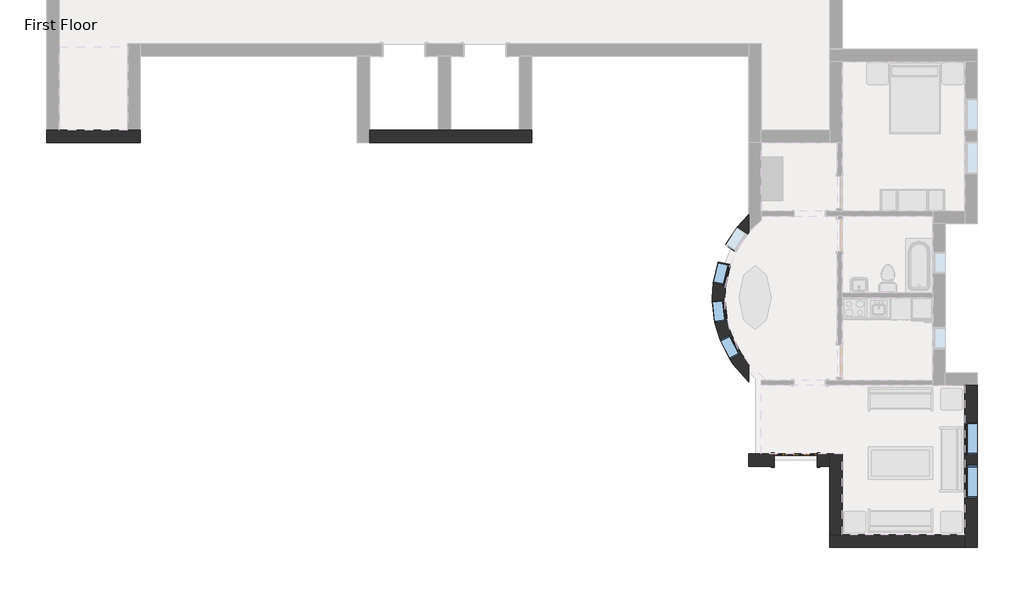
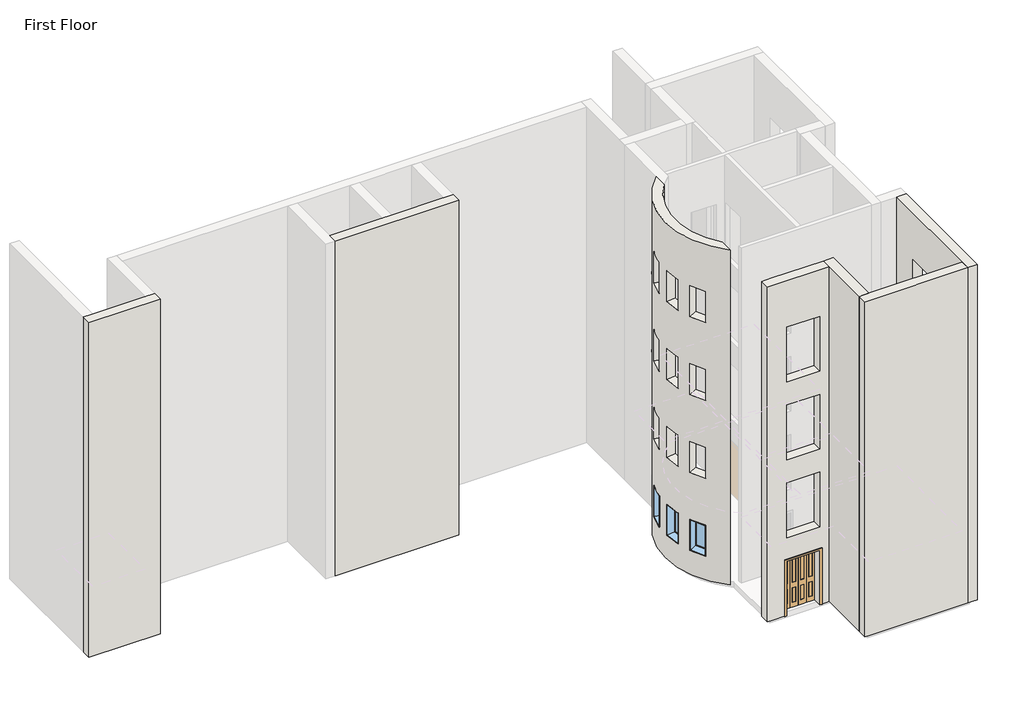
# One storey, part 1 of 8: 7 walls, 5 windows, 1 door.
"""IFC4 building model written with IfcOpenShell, lengths in millimetres."""

from ifc_helpers import new_model, si_unit, frame, origin, place, context, project, spatial, polyline, circle_curve, faceted_brep, transform, mapped, element, save
from ifc_brep_helpers import plane_surface, cylinder_surface, revolved_surface, advanced_brep
from components import m_bifold_4_panel_1220_x_2134mm_1a506c01, m_fixed_0610_x_1220mm_2b91b687, m_fixed_0610_x_1220mm_9ad90eeb, m_fixed_0915_x_1220mm_ca90dcf7

model = new_model("IFC4")

# Units and contexts
model_context = context("Model", 3, world=origin())
ifc_project = project(units=[si_unit("LENGTHUNIT", "METRE", prefix="MILLI")], contexts=[model_context])

# Site, building, storey
site = spatial("IfcSite", under=ifc_project)
building = spatial("IfcBuilding", under=site)
storey = spatial("IfcBuildingStorey", under=building, Name="First Floor", Elevation=0.0)

# Door
placement = place(None, origin())
m_bifold_4_panel_1220_x_2134mm_shape = m_bifold_4_panel_1220_x_2134mm_1a506c01(model_context)
element("IfcDoor", 1, ObjectType="M_Bifold-4 Panel : 1220 x 2134mm", at=placement, inside=storey, context=model_context, shape_type="MappedRepresentation", body=[
    mapped(m_bifold_4_panel_1220_x_2134mm_shape, transform((-5156.1714563, -9518.1683133, 0.0), x_axis=(1.0, 0.0, 0.0), y_axis=(0.0, 1.0, 0.0), z_axis=(0.0, 0.0, 1.0))),
])

# Walls
element("IfcWall", 2, ObjectType="Exterior - Brick on Mtl. Stud", at=placement, inside=storey, context=model_context, shape_type="Brep", body=[
    faceted_brep([(-17171.9589563, -550.3808133, 0.0), (-12599.9589563, -550.3808133, 0.0), (-12599.9589563, -550.3808133, 13106.4), (-17171.9589563, -550.3808133, 13106.4), (-17171.9589563, -197.9558133, 0.0), (-17171.9589563, -197.9558133, 13106.4), (-15238.3839563, -197.9558133, 13106.4), (-14885.9589563, -197.9558133, 13106.4), (-12952.3839563, -197.9558133, 13106.4), (-12599.9589563, -197.9558133, 13106.4), (-12599.9589563, -197.9558133, 0.0), (-12952.3839563, -197.9558133, 0.0), (-14885.9589563, -197.9558133, 0.0), (-15238.3839563, -197.9558133, 0.0)], [[[0, 1, 2, 3]], [[4, 5, 6, 7, 8, 9, 10, 11, 12, 13]], [[1, 0, 4, 13, 12, 11, 10]], [[3, 2, 9, 8, 7, 6, 5]], [[2, 1, 10, 9]], [[0, 3, 5, 4]]]),
])
element("IfcWall", 3, ObjectType="Exterior - Brick on Mtl. Stud", at=placement, inside=storey, context=model_context, shape_type="Brep", body=[
    faceted_brep([(-26287.3839563, -550.3808133, 0.0), (-23648.9589563, -550.3808133, 0.0), (-23648.9589563, -550.3808133, 13106.4), (-26287.3839563, -550.3808133, 13106.4), (-26287.3839563, -197.9558133, 0.0), (-26287.3839563, -197.9558133, 13106.4), (-25934.9589563, -197.9558133, 13106.4), (-24001.3839563, -197.9558133, 13106.4), (-23648.9589563, -197.9558133, 13106.4), (-23648.9589563, -197.9558133, 0.0), (-24001.3839563, -197.9558133, 0.0), (-25934.9589563, -197.9558133, 0.0)], [[[0, 1, 2, 3]], [[4, 5, 6, 7, 8, 9, 10, 11]], [[1, 0, 4, 11, 10, 9]], [[3, 2, 8, 7, 6, 5]], [[2, 1, 9, 8]], [[0, 3, 5, 4]]]),
])
element("IfcWall", 4, ObjectType="Exterior - Brick on Mtl. Stud", at=placement, inside=storey, context=model_context, shape_type="Brep", body=[
    faceted_brep([(-379.3839563, -7408.3808133, 0.0), (-379.3839563, -11627.9558133, 0.0), (-379.3839563, -11793.0558133, 0.0), (-379.3839563, -11980.3808133, 0.0), (-379.3839563, -11980.3808133, 13107.0), (-379.3839563, -11627.9558133, 13107.0), (-379.3839563, -7408.3808133, 13107.0), (-379.3839563, -9366.0683133, 915.0), (-379.3839563, -8451.0683133, 915.0), (-379.3839563, -8451.0683133, 2135.0), (-379.3839563, -9366.0683133, 2135.0), (-379.3839563, -10585.2683133, 915.0), (-379.3839563, -9670.2683133, 915.0), (-379.3839563, -9670.2683133, 2135.0), (-379.3839563, -10585.2683133, 2135.0), (-379.3839563, -10585.2683133, 10059.0), (-379.3839563, -9670.2683133, 10059.0), (-379.3839563, -9670.2683133, 11279.0), (-379.3839563, -10585.2683133, 11279.0), (-379.3839563, -9366.0683133, 10059.0), (-379.3839563, -8451.0683133, 10059.0), (-379.3839563, -8451.0683133, 11279.0), (-379.3839563, -9366.0683133, 11279.0), (-379.3839563, -10585.2683133, 3963.0), (-379.3839563, -9670.2683133, 3963.0), (-379.3839563, -9670.2683133, 5183.0), (-379.3839563, -10585.2683133, 5183.0), (-379.3839563, -9366.0683133, 3963.0), (-379.3839563, -8451.0683133, 3963.0), (-379.3839563, -8451.0683133, 5183.0), (-379.3839563, -9366.0683133, 5183.0), (-379.3839563, -10585.2683133, 7011.0), (-379.3839563, -9670.2683133, 7011.0), (-379.3839563, -9670.2683133, 8231.0), (-379.3839563, -10585.2683133, 8231.0), (-379.3839563, -9366.0683133, 7011.0), (-379.3839563, -8451.0683133, 7011.0), (-379.3839563, -8451.0683133, 8231.0), (-379.3839563, -9366.0683133, 8231.0), (-26.9589563, -7408.3808133, 0.0), (-26.9589563, -7408.3808133, 13107.0), (-26.9589563, -11980.3808133, 13107.0), (-26.9589563, -11980.3808133, 0.0), (-26.9589563, -11793.0558133, 0.0), (-26.9589563, -9366.0683133, 915.0), (-26.9589563, -9366.0683133, 2135.0), (-26.9589563, -8451.0683133, 2135.0), (-26.9589563, -8451.0683133, 915.0), (-26.9589563, -10585.2683133, 915.0), (-26.9589563, -10585.2683133, 2135.0), (-26.9589563, -9670.2683133, 2135.0), (-26.9589563, -9670.2683133, 915.0), (-26.9589563, -10585.2683133, 10059.0), (-26.9589563, -10585.2683133, 11279.0), (-26.9589563, -9670.2683133, 11279.0), (-26.9589563, -9670.2683133, 10059.0), (-26.9589563, -9366.0683133, 10059.0), (-26.9589563, -9366.0683133, 11279.0), (-26.9589563, -8451.0683133, 11279.0), (-26.9589563, -8451.0683133, 10059.0), (-26.9589563, -10585.2683133, 3963.0), (-26.9589563, -10585.2683133, 5183.0), (-26.9589563, -9670.2683133, 5183.0), (-26.9589563, -9670.2683133, 3963.0), (-26.9589563, -9366.0683133, 3963.0), (-26.9589563, -9366.0683133, 5183.0), (-26.9589563, -8451.0683133, 5183.0), (-26.9589563, -8451.0683133, 3963.0), (-26.9589563, -10585.2683133, 7011.0), (-26.9589563, -10585.2683133, 8231.0), (-26.9589563, -9670.2683133, 8231.0), (-26.9589563, -9670.2683133, 7011.0), (-26.9589563, -9366.0683133, 7011.0), (-26.9589563, -9366.0683133, 8231.0), (-26.9589563, -8451.0683133, 8231.0), (-26.9589563, -8451.0683133, 7011.0), (-214.2839563, -7408.3808133, 0.0), (-214.2839563, -11980.3808133, 0.0), (-214.2839563, -11793.0558133, 0.0)], [[[0, 1, 2, 3, 4, 5, 6], [7, 8, 9, 10], [11, 12, 13, 14], [15, 16, 17, 18], [19, 20, 21, 22], [23, 24, 25, 26], [27, 28, 29, 30], [31, 32, 33, 34], [35, 36, 37, 38]], [[39, 40, 41, 42, 43], [44, 45, 46, 47], [48, 49, 50, 51], [52, 53, 54, 55], [56, 57, 58, 59], [60, 61, 62, 63], [64, 65, 66, 67], [68, 69, 70, 71], [72, 73, 74, 75]], [[6, 5, 4, 41, 40]], [[0, 6, 40, 39, 76]], [[4, 3, 77, 42, 41]], [[45, 44, 7, 10]], [[46, 45, 10, 9]], [[47, 46, 9, 8]], [[44, 47, 8, 7]], [[49, 48, 11, 14]], [[50, 49, 14, 13]], [[51, 50, 13, 12]], [[48, 51, 12, 11]], [[76, 39, 43, 78]], [[3, 2, 78, 77]], [[78, 43, 42, 77]], [[2, 1, 0, 76, 78]], [[53, 52, 15, 18]], [[54, 53, 18, 17]], [[55, 54, 17, 16]], [[52, 55, 16, 15]], [[57, 56, 19, 22]], [[58, 57, 22, 21]], [[59, 58, 21, 20]], [[56, 59, 20, 19]], [[61, 60, 23, 26]], [[62, 61, 26, 25]], [[63, 62, 25, 24]], [[60, 63, 24, 23]], [[65, 64, 27, 30]], [[66, 65, 30, 29]], [[67, 66, 29, 28]], [[64, 67, 28, 27]], [[69, 68, 31, 34]], [[70, 69, 34, 33]], [[71, 70, 33, 32]], [[68, 71, 32, 31]], [[73, 72, 35, 38]], [[74, 73, 38, 37]], [[75, 74, 37, 36]], [[72, 75, 36, 35]]]),
])
element("IfcWall", 5, ObjectType="Exterior - Brick on Mtl. Stud", at=placement, inside=storey, context=model_context, shape_type="Brep", body=[
    faceted_brep([(-379.3839563, -11627.9558133, 0.0), (-3836.9589563, -11627.9558133, 0.0), (-4002.0589563, -11627.9558133, 0.0), (-4189.3839563, -11627.9558133, 0.0), (-4189.3839563, -11627.9558133, 13107.0), (-3836.9589563, -11627.9558133, 13107.0), (-379.3839563, -11627.9558133, 13107.0), (-379.3839563, -11980.3808133, 0.0), (-379.3839563, -11980.3808133, 13107.0), (-4189.3839563, -11980.3808133, 13107.0), (-4189.3839563, -11980.3808133, 0.0), (-4002.0589563, -11980.3808133, 0.0), (-379.3839563, -11793.0558133, 0.0), (-4189.3839563, -11793.0558133, 0.0), (-4002.0589563, -11793.0558133, 0.0)], [[[0, 1, 2, 3, 4, 5, 6]], [[7, 8, 9, 10, 11]], [[6, 5, 4, 9, 8]], [[0, 6, 8, 7, 12]], [[4, 3, 13, 10, 9]], [[12, 7, 11, 14]], [[3, 2, 14, 13]], [[14, 11, 10, 13]], [[2, 1, 0, 12, 14]]]),
])
element("IfcWall", 6, ObjectType="Exterior - Brick on Mtl. Stud", at=placement, inside=storey, context=model_context, shape_type="Brep", body=[
    faceted_brep([(-3836.9589563, -11627.9558133, 0.0), (-3836.9589563, -9507.0558133, 0.0), (-3836.9589563, -9341.9558133, 0.0), (-3836.9589563, -9341.9558133, 13107.0), (-3836.9589563, -11627.9558133, 13107.0), (-4189.3839563, -11627.9558133, 0.0), (-4189.3839563, -11627.9558133, 13107.0), (-4189.3839563, -9694.3808133, 13107.0), (-4189.3839563, -9341.9558133, 13107.0), (-4189.3839563, -9341.9558133, 0.0), (-4189.3839563, -9507.0558133, 0.0), (-4189.3839563, -9694.3808133, 0.0), (-4002.0589563, -11627.9558133, 0.0), (-4002.0589563, -9507.0558133, 0.0)], [[[0, 1, 2, 3, 4]], [[5, 6, 7, 8, 9, 10, 11]], [[4, 3, 8, 7, 6]], [[0, 4, 6, 5, 12]], [[3, 2, 9, 8]], [[12, 5, 11, 10, 13]], [[10, 9, 2, 1, 0, 12, 13]]]),
])
element("IfcWall", 7, ObjectType="Exterior - Brick on Mtl. Stud", at=placement, inside=storey, context=model_context, shape_type="Brep", body=[
    faceted_brep([(-6475.3839563, -9341.9558133, 13107.0), (-6122.9589563, -9341.9558133, 13107.0), (-4189.3839563, -9341.9558133, 13107.0), (-4189.3839563, -9341.9558133, 0.0), (-4546.1714563, -9341.9558133, 0.0), (-4546.1714563, -9341.9558133, 2134.0), (-5766.1714563, -9341.9558133, 2134.0), (-5766.1714563, -9341.9558133, 0.0), (-6122.9589563, -9341.9558133, 0.0), (-6288.0589563, -9341.9558133, 0.0), (-6475.3839563, -9341.9558133, 0.0), (-4546.1714563, -9341.9558133, 9144.0), (-4546.1714563, -9341.9558133, 11278.0), (-5766.1714563, -9341.9558133, 11278.0), (-5766.1714563, -9341.9558133, 9144.0), (-4546.1714563, -9341.9558133, 3048.0), (-4546.1714563, -9341.9558133, 5182.0), (-5766.1714563, -9341.9558133, 5182.0), (-5766.1714563, -9341.9558133, 3048.0), (-4546.1714563, -9341.9558133, 6096.0), (-4546.1714563, -9341.9558133, 8230.0), (-5766.1714563, -9341.9558133, 8230.0), (-5766.1714563, -9341.9558133, 6096.0), (-4189.3839563, -9694.3808133, 13107.0), (-6475.3839563, -9694.3808133, 13107.0), (-6475.3839563, -9694.3808133, 0.0), (-6288.0589563, -9694.3808133, 0.0), (-5766.1714563, -9694.3808133, 0.0), (-5766.1714563, -9694.3808133, 2134.0), (-4546.1714563, -9694.3808133, 2134.0), (-4546.1714563, -9694.3808133, 0.0), (-4189.3839563, -9694.3808133, 0.0), (-4546.1714563, -9694.3808133, 9144.0), (-5766.1714563, -9694.3808133, 9144.0), (-5766.1714563, -9694.3808133, 11278.0), (-4546.1714563, -9694.3808133, 11278.0), (-4546.1714563, -9694.3808133, 3048.0), (-5766.1714563, -9694.3808133, 3048.0), (-5766.1714563, -9694.3808133, 5182.0), (-4546.1714563, -9694.3808133, 5182.0), (-4546.1714563, -9694.3808133, 6096.0), (-5766.1714563, -9694.3808133, 6096.0), (-5766.1714563, -9694.3808133, 8230.0), (-4546.1714563, -9694.3808133, 8230.0), (-4189.3839563, -9507.0558133, 0.0), (-6475.3839563, -9507.0558133, 0.0), (-4546.1714563, -9507.0558133, 0.0), (-5766.1714563, -9507.0558133, 0.0), (-6288.0589563, -9507.0558133, 0.0)], [[[0, 1, 2, 3, 4, 5, 6, 7, 8, 9, 10], [11, 12, 13, 14], [15, 16, 17, 18], [19, 20, 21, 22]], [[23, 24, 25, 26, 27, 28, 29, 30, 31], [32, 33, 34, 35], [36, 37, 38, 39], [40, 41, 42, 43]], [[2, 1, 0, 24, 23]], [[3, 2, 23, 31, 44]], [[0, 10, 45, 25, 24]], [[29, 5, 4, 46, 30]], [[5, 29, 28, 6]], [[6, 28, 27, 47, 7]], [[44, 31, 30, 46]], [[26, 48, 47, 27]], [[10, 9, 48, 45]], [[26, 25, 45, 48]], [[3, 44, 46, 4]], [[48, 9, 8, 7, 47]], [[12, 11, 32, 35]], [[13, 12, 35, 34]], [[14, 13, 34, 33]], [[11, 14, 33, 32]], [[16, 15, 36, 39]], [[17, 16, 39, 38]], [[18, 17, 38, 37]], [[15, 18, 37, 36]], [[20, 19, 40, 43]], [[21, 20, 43, 42]], [[22, 21, 42, 41]], [[19, 22, 41, 40]]]),
])
element("IfcWall", 8, ObjectType="Exterior - Brick on Mtl. Stud", at=placement, inside=storey, context=model_context, shape_type="AdvancedBrep", body=[
    advanced_brep(
    [(-6475.3839563, -6801.1868506, 13107.0), (-6475.3839563, -3091.149776, 13107.0), (-6475.3839563, -2581.9609252, 13107.0), (-6475.3839563, -7310.3757014, 13107.0), (-6475.3839563, -3091.149776, 0.0), (-6475.3839563, -6801.1868506, 0.0), (-6475.3839563, -7310.3757014, 0.0), (-6475.3839563, -2581.9609252, 0.0), (-6507.7291349, -3130.0657528, 915.0), (-6841.1221669, -3640.897512, 915.0), (-6841.1221669, -3640.897512, 2135.0), (-6507.7291349, -3130.0657528, 2135.0), (-6994.7117803, -4000.4550506, 2135.0), (-6994.7117803, -4000.4550506, 915.0), (-7133.2840007, -4594.5070178, 915.0), (-7133.2840007, -4594.5070178, 2135.0), (-7081.6726603, -5590.5320658, 915.0), (-7081.6726603, -5590.5320658, 2135.0), (-7154.6351062, -4984.9113252, 2135.0), (-7154.6351062, -4984.9113252, 915.0), (-6692.5132348, -6508.8373354, 915.0), (-6692.5132348, -6508.8373354, 2135.0), (-6968.2099994, -5964.6946207, 2135.0), (-6968.2099994, -5964.6946207, 915.0), (-7081.6726603, -5590.5320658, 10059.0), (-7081.6726603, -5590.5320658, 11279.0), (-7154.6351062, -4984.9113252, 11279.0), (-7154.6351062, -4984.9113252, 10059.0), (-6692.5132348, -6508.8373354, 10059.0), (-6692.5132348, -6508.8373354, 11279.0), (-6968.2099994, -5964.6946207, 11279.0), (-6968.2099994, -5964.6946207, 10059.0), (-6994.7117803, -4000.4550506, 11279.0), (-6994.7117803, -4000.4550506, 10059.0), (-7133.2840007, -4594.5070178, 10059.0), (-7133.2840007, -4594.5070178, 11279.0), (-6507.7291349, -3130.0657528, 11279.0), (-6507.7291349, -3130.0657528, 10059.0), (-6841.1221669, -3640.897512, 10059.0), (-6841.1221669, -3640.897512, 11279.0), (-7081.6726603, -5590.5320658, 3963.0), (-7081.6726603, -5590.5320658, 5183.0), (-7154.6351062, -4984.9113252, 5183.0), (-7154.6351062, -4984.9113252, 3963.0), (-6692.5132348, -6508.8373354, 3963.0), (-6692.5132348, -6508.8373354, 5183.0), (-6968.2099994, -5964.6946207, 5183.0), (-6968.2099994, -5964.6946207, 3963.0), (-6994.7117803, -4000.4550506, 5183.0), (-6994.7117803, -4000.4550506, 3963.0), (-7133.2840007, -4594.5070178, 3963.0), (-7133.2840007, -4594.5070178, 5183.0), (-6507.7291349, -3130.0657528, 5183.0), (-6507.7291349, -3130.0657528, 3963.0), (-6841.1221669, -3640.897512, 3963.0), (-6841.1221669, -3640.897512, 5183.0), (-7081.6726603, -5590.5320658, 7011.0), (-7081.6726603, -5590.5320658, 8231.0), (-7154.6351062, -4984.9113252, 8231.0), (-7154.6351062, -4984.9113252, 7011.0), (-6692.5132348, -6508.8373354, 7011.0), (-6692.5132348, -6508.8373354, 8231.0), (-6968.2099994, -5964.6946207, 8231.0), (-6968.2099994, -5964.6946207, 7011.0), (-6994.7117803, -4000.4550506, 8231.0), (-6994.7117803, -4000.4550506, 7011.0), (-7133.2840007, -4594.5070178, 7011.0), (-7133.2840007, -4594.5070178, 8231.0), (-6507.7291349, -3130.0657528, 8231.0), (-6507.7291349, -3130.0657528, 7011.0), (-6841.1221669, -3640.897512, 7011.0), (-6841.1221669, -3640.897512, 8231.0), (-6804.353954, -2936.4743287, 915.0), (-6804.353954, -2936.4743287, 2135.0), (-7137.7469859, -3447.3060879, 2135.0), (-7137.7469859, -3447.3060879, 915.0), (-7339.6601005, -3919.990281, 915.0), (-7339.6601005, -3919.990281, 2135.0), (-7478.2323209, -4514.0422482, 2135.0), (-7478.2323209, -4514.0422482, 915.0), (-7433.3386233, -5632.8991895, 2135.0), (-7433.3386233, -5632.8991895, 915.0), (-7506.3010693, -5027.2784489, 915.0), (-7506.3010693, -5027.2784489, 2135.0), (-7008.4807356, -6668.926252, 2135.0), (-7008.4807356, -6668.926252, 915.0), (-7284.1775002, -6124.7835373, 915.0), (-7284.1775002, -6124.7835373, 2135.0), (-7433.3386233, -5632.8991895, 11279.0), (-7433.3386233, -5632.8991895, 10059.0), (-7506.3010693, -5027.2784489, 10059.0), (-7506.3010693, -5027.2784489, 11279.0), (-7008.4807356, -6668.926252, 11279.0), (-7008.4807356, -6668.926252, 10059.0), (-7284.1775002, -6124.7835373, 10059.0), (-7284.1775002, -6124.7835373, 11279.0), (-7339.6601005, -3919.990281, 10059.0), (-7339.6601005, -3919.990281, 11279.0), (-7478.2323209, -4514.0422482, 11279.0), (-7478.2323209, -4514.0422482, 10059.0), (-6804.353954, -2936.4743287, 10059.0), (-6804.353954, -2936.4743287, 11279.0), (-7137.7469859, -3447.3060879, 11279.0), (-7137.7469859, -3447.3060879, 10059.0), (-7433.3386233, -5632.8991895, 5183.0), (-7433.3386233, -5632.8991895, 3963.0), (-7506.3010693, -5027.2784489, 3963.0), (-7506.3010693, -5027.2784489, 5183.0), (-7008.4807356, -6668.926252, 5183.0), (-7008.4807356, -6668.926252, 3963.0), (-7284.1775002, -6124.7835373, 3963.0), (-7284.1775002, -6124.7835373, 5183.0), (-7339.6601005, -3919.990281, 3963.0), (-7339.6601005, -3919.990281, 5183.0), (-7478.2323209, -4514.0422482, 5183.0), (-7478.2323209, -4514.0422482, 3963.0), (-6804.353954, -2936.4743287, 3963.0), (-6804.353954, -2936.4743287, 5183.0), (-7137.7469859, -3447.3060879, 5183.0), (-7137.7469859, -3447.3060879, 3963.0), (-7433.3386233, -5632.8991895, 8231.0), (-7433.3386233, -5632.8991895, 7011.0), (-7506.3010693, -5027.2784489, 7011.0), (-7506.3010693, -5027.2784489, 8231.0), (-7008.4807356, -6668.926252, 8231.0), (-7008.4807356, -6668.926252, 7011.0), (-7284.1775002, -6124.7835373, 7011.0), (-7284.1775002, -6124.7835373, 8231.0), (-7339.6601005, -3919.990281, 7011.0), (-7339.6601005, -3919.990281, 8231.0), (-7478.2323209, -4514.0422482, 8231.0), (-7478.2323209, -4514.0422482, 7011.0), (-6804.353954, -2936.4743287, 7011.0), (-6804.353954, -2936.4743287, 8231.0), (-7137.7469859, -3447.3060879, 8231.0), (-7137.7469859, -3447.3060879, 7011.0)],
    [
        (0, 1, circle_curve(frame((-4283.1089573, -4946.1683133, 13107.0), z_axis=(0.0, 0.0, -1.0), x_axis=(0.0, -1.0, 0.0)), 2871.7875)),
        (1, 2),
        (2, 3, circle_curve(frame((-4283.1089573, -4946.1683133, 13107.0), z_axis=(0.0, 0.0, 1.0), x_axis=(0.0, -1.0, 0.0)), 3224.2125)),
        (3, 0),
        (4, 5, circle_curve(frame((-4283.1089573, -4946.1683133, 0.0), z_axis=(0.0, 0.0, 1.0), x_axis=(0.0, -1.0, 0.0)), 2871.7875)),
        (5, 6),
        (6, 7, circle_curve(frame((-4283.1089573, -4946.1683133, 0.0), z_axis=(0.0, 0.0, -1.0), x_axis=(0.0, -1.0, 0.0)), 3224.2125)),
        (7, 4),
        (0, 5),
        (4, 1),
        (8, 9, circle_curve(frame((-4283.1089573, -4946.1683133, 915.0), z_axis=(0.0, 0.0, 1.0), x_axis=(0.0, -1.0, 0.0)), 2871.7875)),
        (9, 10),
        (10, 11, circle_curve(frame((-4283.1089573, -4946.1683133, 2135.0), z_axis=(0.0, 0.0, -1.0), x_axis=(0.0, -1.0, 0.0)), 2871.7875)),
        (11, 8),
        (12, 13),
        (13, 14, circle_curve(frame((-4283.1089573, -4946.1683133, 915.0), z_axis=(0.0, 0.0, 1.0), x_axis=(0.0, -1.0, 0.0)), 2871.7875)),
        (14, 15),
        (15, 12, circle_curve(frame((-4283.1089573, -4946.1683133, 2135.0), z_axis=(0.0, 0.0, -1.0), x_axis=(0.0, -1.0, 0.0)), 2871.7875)),
        (16, 17),
        (17, 18, circle_curve(frame((-4283.1089573, -4946.1683133, 2135.0), z_axis=(0.0, 0.0, -1.0), x_axis=(0.0, -1.0, 0.0)), 2871.7875)),
        (18, 19),
        (19, 16, circle_curve(frame((-4283.1089573, -4946.1683133, 915.0), z_axis=(0.0, 0.0, 1.0), x_axis=(0.0, -1.0, 0.0)), 2871.7875)),
        (20, 21),
        (21, 22, circle_curve(frame((-4283.1089573, -4946.1683133, 2135.0), z_axis=(0.0, 0.0, -1.0), x_axis=(0.0, -1.0, 0.0)), 2871.7875)),
        (22, 23),
        (23, 20, circle_curve(frame((-4283.1089573, -4946.1683133, 915.0), z_axis=(0.0, 0.0, 1.0), x_axis=(0.0, -1.0, 0.0)), 2871.7875)),
        (24, 25),
        (25, 26, circle_curve(frame((-4283.1089573, -4946.1683133, 11279.0), z_axis=(0.0, 0.0, -1.0), x_axis=(0.0, -1.0, 0.0)), 2871.7875)),
        (26, 27),
        (27, 24, circle_curve(frame((-4283.1089573, -4946.1683133, 10059.0), z_axis=(0.0, 0.0, 1.0), x_axis=(0.0, -1.0, 0.0)), 2871.7875)),
        (28, 29),
        (29, 30, circle_curve(frame((-4283.1089573, -4946.1683133, 11279.0), z_axis=(0.0, 0.0, -1.0), x_axis=(0.0, -1.0, 0.0)), 2871.7875)),
        (30, 31),
        (31, 28, circle_curve(frame((-4283.1089573, -4946.1683133, 10059.0), z_axis=(0.0, 0.0, 1.0), x_axis=(0.0, -1.0, 0.0)), 2871.7875)),
        (32, 33),
        (33, 34, circle_curve(frame((-4283.1089573, -4946.1683133, 10059.0), z_axis=(0.0, 0.0, 1.0), x_axis=(0.0, -1.0, 0.0)), 2871.7875)),
        (34, 35),
        (35, 32, circle_curve(frame((-4283.1089573, -4946.1683133, 11279.0), z_axis=(0.0, 0.0, -1.0), x_axis=(0.0, -1.0, 0.0)), 2871.7875)),
        (36, 37),
        (37, 38, circle_curve(frame((-4283.1089573, -4946.1683133, 10059.0), z_axis=(0.0, 0.0, 1.0), x_axis=(0.0, -1.0, 0.0)), 2871.7875)),
        (38, 39),
        (39, 36, circle_curve(frame((-4283.1089573, -4946.1683133, 11279.0), z_axis=(0.0, 0.0, -1.0), x_axis=(0.0, -1.0, 0.0)), 2871.7875)),
        (40, 41),
        (41, 42, circle_curve(frame((-4283.1089573, -4946.1683133, 5183.0), z_axis=(0.0, 0.0, -1.0), x_axis=(0.0, -1.0, 0.0)), 2871.7875)),
        (42, 43),
        (43, 40, circle_curve(frame((-4283.1089573, -4946.1683133, 3963.0), z_axis=(0.0, 0.0, 1.0), x_axis=(0.0, -1.0, 0.0)), 2871.7875)),
        (44, 45),
        (45, 46, circle_curve(frame((-4283.1089573, -4946.1683133, 5183.0), z_axis=(0.0, 0.0, -1.0), x_axis=(0.0, -1.0, 0.0)), 2871.7875)),
        (46, 47),
        (47, 44, circle_curve(frame((-4283.1089573, -4946.1683133, 3963.0), z_axis=(0.0, 0.0, 1.0), x_axis=(0.0, -1.0, 0.0)), 2871.7875)),
        (48, 49),
        (49, 50, circle_curve(frame((-4283.1089573, -4946.1683133, 3963.0), z_axis=(0.0, 0.0, 1.0), x_axis=(0.0, -1.0, 0.0)), 2871.7875)),
        (50, 51),
        (51, 48, circle_curve(frame((-4283.1089573, -4946.1683133, 5183.0), z_axis=(0.0, 0.0, -1.0), x_axis=(0.0, -1.0, 0.0)), 2871.7875)),
        (52, 53),
        (53, 54, circle_curve(frame((-4283.1089573, -4946.1683133, 3963.0), z_axis=(0.0, 0.0, 1.0), x_axis=(0.0, -1.0, 0.0)), 2871.7875)),
        (54, 55),
        (55, 52, circle_curve(frame((-4283.1089573, -4946.1683133, 5183.0), z_axis=(0.0, 0.0, -1.0), x_axis=(0.0, -1.0, 0.0)), 2871.7875)),
        (56, 57),
        (57, 58, circle_curve(frame((-4283.1089573, -4946.1683133, 8231.0), z_axis=(0.0, 0.0, -1.0), x_axis=(0.0, -1.0, 0.0)), 2871.7875)),
        (58, 59),
        (59, 56, circle_curve(frame((-4283.1089573, -4946.1683133, 7011.0), z_axis=(0.0, 0.0, 1.0), x_axis=(0.0, -1.0, 0.0)), 2871.7875)),
        (60, 61),
        (61, 62, circle_curve(frame((-4283.1089573, -4946.1683133, 8231.0), z_axis=(0.0, 0.0, -1.0), x_axis=(0.0, -1.0, 0.0)), 2871.7875)),
        (62, 63),
        (63, 60, circle_curve(frame((-4283.1089573, -4946.1683133, 7011.0), z_axis=(0.0, 0.0, 1.0), x_axis=(0.0, -1.0, 0.0)), 2871.7875)),
        (64, 65),
        (65, 66, circle_curve(frame((-4283.1089573, -4946.1683133, 7011.0), z_axis=(0.0, 0.0, 1.0), x_axis=(0.0, -1.0, 0.0)), 2871.7875)),
        (66, 67),
        (67, 64, circle_curve(frame((-4283.1089573, -4946.1683133, 8231.0), z_axis=(0.0, 0.0, -1.0), x_axis=(0.0, -1.0, 0.0)), 2871.7875)),
        (68, 69),
        (69, 70, circle_curve(frame((-4283.1089573, -4946.1683133, 7011.0), z_axis=(0.0, 0.0, 1.0), x_axis=(0.0, -1.0, 0.0)), 2871.7875)),
        (70, 71),
        (71, 68, circle_curve(frame((-4283.1089573, -4946.1683133, 8231.0), z_axis=(0.0, 0.0, -1.0), x_axis=(0.0, -1.0, 0.0)), 2871.7875)),
        (2, 7),
        (6, 3),
        (72, 73),
        (73, 74, circle_curve(frame((-4283.1089573, -4946.1683133, 2135.0), z_axis=(0.0, 0.0, 1.0), x_axis=(0.0, -1.0, 0.0)), 3224.2125)),
        (74, 75),
        (75, 72, circle_curve(frame((-4283.1089573, -4946.1683133, 915.0), z_axis=(0.0, 0.0, -1.0), x_axis=(0.0, -1.0, 0.0)), 3224.2125)),
        (76, 77),
        (77, 78, circle_curve(frame((-4283.1089573, -4946.1683133, 2135.0), z_axis=(0.0, 0.0, 1.0), x_axis=(0.0, -1.0, 0.0)), 3224.2125)),
        (78, 79),
        (79, 76, circle_curve(frame((-4283.1089573, -4946.1683133, 915.0), z_axis=(0.0, 0.0, -1.0), x_axis=(0.0, -1.0, 0.0)), 3224.2125)),
        (80, 81),
        (81, 82, circle_curve(frame((-4283.1089573, -4946.1683133, 915.0), z_axis=(0.0, 0.0, -1.0), x_axis=(0.0, -1.0, 0.0)), 3224.2125)),
        (82, 83),
        (83, 80, circle_curve(frame((-4283.1089573, -4946.1683133, 2135.0), z_axis=(0.0, 0.0, 1.0), x_axis=(0.0, -1.0, 0.0)), 3224.2125)),
        (84, 85),
        (85, 86, circle_curve(frame((-4283.1089573, -4946.1683133, 915.0), z_axis=(0.0, 0.0, -1.0), x_axis=(0.0, -1.0, 0.0)), 3224.2125)),
        (86, 87),
        (87, 84, circle_curve(frame((-4283.1089573, -4946.1683133, 2135.0), z_axis=(0.0, 0.0, 1.0), x_axis=(0.0, -1.0, 0.0)), 3224.2125)),
        (88, 89),
        (89, 90, circle_curve(frame((-4283.1089573, -4946.1683133, 10059.0), z_axis=(0.0, 0.0, -1.0), x_axis=(0.0, -1.0, 0.0)), 3224.2125)),
        (90, 91),
        (91, 88, circle_curve(frame((-4283.1089573, -4946.1683133, 11279.0), z_axis=(0.0, 0.0, 1.0), x_axis=(0.0, -1.0, 0.0)), 3224.2125)),
        (92, 93),
        (93, 94, circle_curve(frame((-4283.1089573, -4946.1683133, 10059.0), z_axis=(0.0, 0.0, -1.0), x_axis=(0.0, -1.0, 0.0)), 3224.2125)),
        (94, 95),
        (95, 92, circle_curve(frame((-4283.1089573, -4946.1683133, 11279.0), z_axis=(0.0, 0.0, 1.0), x_axis=(0.0, -1.0, 0.0)), 3224.2125)),
        (96, 97),
        (97, 98, circle_curve(frame((-4283.1089573, -4946.1683133, 11279.0), z_axis=(0.0, 0.0, 1.0), x_axis=(0.0, -1.0, 0.0)), 3224.2125)),
        (98, 99),
        (99, 96, circle_curve(frame((-4283.1089573, -4946.1683133, 10059.0), z_axis=(0.0, 0.0, -1.0), x_axis=(0.0, -1.0, 0.0)), 3224.2125)),
        (100, 101),
        (101, 102, circle_curve(frame((-4283.1089573, -4946.1683133, 11279.0), z_axis=(0.0, 0.0, 1.0), x_axis=(0.0, -1.0, 0.0)), 3224.2125)),
        (102, 103),
        (103, 100, circle_curve(frame((-4283.1089573, -4946.1683133, 10059.0), z_axis=(0.0, 0.0, -1.0), x_axis=(0.0, -1.0, 0.0)), 3224.2125)),
        (104, 105),
        (105, 106, circle_curve(frame((-4283.1089573, -4946.1683133, 3963.0), z_axis=(0.0, 0.0, -1.0), x_axis=(0.0, -1.0, 0.0)), 3224.2125)),
        (106, 107),
        (107, 104, circle_curve(frame((-4283.1089573, -4946.1683133, 5183.0), z_axis=(0.0, 0.0, 1.0), x_axis=(0.0, -1.0, 0.0)), 3224.2125)),
        (108, 109),
        (109, 110, circle_curve(frame((-4283.1089573, -4946.1683133, 3963.0), z_axis=(0.0, 0.0, -1.0), x_axis=(0.0, -1.0, 0.0)), 3224.2125)),
        (110, 111),
        (111, 108, circle_curve(frame((-4283.1089573, -4946.1683133, 5183.0), z_axis=(0.0, 0.0, 1.0), x_axis=(0.0, -1.0, 0.0)), 3224.2125)),
        (112, 113),
        (113, 114, circle_curve(frame((-4283.1089573, -4946.1683133, 5183.0), z_axis=(0.0, 0.0, 1.0), x_axis=(0.0, -1.0, 0.0)), 3224.2125)),
        (114, 115),
        (115, 112, circle_curve(frame((-4283.1089573, -4946.1683133, 3963.0), z_axis=(0.0, 0.0, -1.0), x_axis=(0.0, -1.0, 0.0)), 3224.2125)),
        (116, 117),
        (117, 118, circle_curve(frame((-4283.1089573, -4946.1683133, 5183.0), z_axis=(0.0, 0.0, 1.0), x_axis=(0.0, -1.0, 0.0)), 3224.2125)),
        (118, 119),
        (119, 116, circle_curve(frame((-4283.1089573, -4946.1683133, 3963.0), z_axis=(0.0, 0.0, -1.0), x_axis=(0.0, -1.0, 0.0)), 3224.2125)),
        (120, 121),
        (121, 122, circle_curve(frame((-4283.1089573, -4946.1683133, 7011.0), z_axis=(0.0, 0.0, -1.0), x_axis=(0.0, -1.0, 0.0)), 3224.2125)),
        (122, 123),
        (123, 120, circle_curve(frame((-4283.1089573, -4946.1683133, 8231.0), z_axis=(0.0, 0.0, 1.0), x_axis=(0.0, -1.0, 0.0)), 3224.2125)),
        (124, 125),
        (125, 126, circle_curve(frame((-4283.1089573, -4946.1683133, 7011.0), z_axis=(0.0, 0.0, -1.0), x_axis=(0.0, -1.0, 0.0)), 3224.2125)),
        (126, 127),
        (127, 124, circle_curve(frame((-4283.1089573, -4946.1683133, 8231.0), z_axis=(0.0, 0.0, 1.0), x_axis=(0.0, -1.0, 0.0)), 3224.2125)),
        (128, 129),
        (129, 130, circle_curve(frame((-4283.1089573, -4946.1683133, 8231.0), z_axis=(0.0, 0.0, 1.0), x_axis=(0.0, -1.0, 0.0)), 3224.2125)),
        (130, 131),
        (131, 128, circle_curve(frame((-4283.1089573, -4946.1683133, 7011.0), z_axis=(0.0, 0.0, -1.0), x_axis=(0.0, -1.0, 0.0)), 3224.2125)),
        (132, 133),
        (133, 134, circle_curve(frame((-4283.1089573, -4946.1683133, 8231.0), z_axis=(0.0, 0.0, 1.0), x_axis=(0.0, -1.0, 0.0)), 3224.2125)),
        (134, 135),
        (135, 132, circle_curve(frame((-4283.1089573, -4946.1683133, 7011.0), z_axis=(0.0, 0.0, -1.0), x_axis=(0.0, -1.0, 0.0)), 3224.2125)),
        (72, 8),
        (11, 73),
        (10, 74),
        (9, 75),
        (76, 13),
        (12, 77),
        (15, 78),
        (14, 79),
        (16, 81),
        (80, 17),
        (83, 18),
        (82, 19),
        (20, 85),
        (84, 21),
        (87, 22),
        (86, 23),
        (24, 89),
        (88, 25),
        (91, 26),
        (90, 27),
        (28, 93),
        (92, 29),
        (95, 30),
        (94, 31),
        (96, 33),
        (32, 97),
        (35, 98),
        (34, 99),
        (100, 37),
        (36, 101),
        (39, 102),
        (38, 103),
        (40, 105),
        (104, 41),
        (107, 42),
        (106, 43),
        (44, 109),
        (108, 45),
        (111, 46),
        (110, 47),
        (112, 49),
        (48, 113),
        (51, 114),
        (50, 115),
        (116, 53),
        (52, 117),
        (55, 118),
        (54, 119),
        (56, 121),
        (120, 57),
        (123, 58),
        (122, 59),
        (60, 125),
        (124, 61),
        (127, 62),
        (126, 63),
        (128, 65),
        (64, 129),
        (67, 130),
        (66, 131),
        (132, 69),
        (68, 133),
        (71, 134),
        (70, 135),
    ],
    [
        plane_surface(frame((-4283.1089573, -7817.9558133, 13107.0), z_axis=(0.0, 0.0, 1.0), x_axis=(-1.0, 0.0, 0.0))),
        plane_surface(frame((-4283.1089573, -7817.9558133, 0.0), z_axis=(0.0, 0.0, -1.0), x_axis=(1.0, 0.0, 0.0))),
        revolved_surface(polyline([(-4283.1089573, -7817.955813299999, 0.0), (-4283.1089573, -7817.955813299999, 13107.0)]), (-4283.1089573, -4946.1683133, 0.0), (0.0, 0.0, -1.0)),
        cylinder_surface(frame((-4283.1089573, -4946.1683133, 0.0), z_axis=(0.0, 0.0, 1.0), x_axis=(0.0, -1.0, 0.0)), 3224.2125),
        plane_surface(frame((-6475.3839563, -9518.1683133, 0.0), z_axis=(1.0, 0.0, 0.0), x_axis=(0.0, -1.0, 0.0))),
        plane_surface(frame((-6475.3839563, -374.1683133, 0.0), z_axis=(1.0, 0.0, 0.0), x_axis=(0.0, -1.0, 0.0))),
        plane_surface(frame((-6804.353954, -2936.4743287, 915.0), z_axis=(-0.5465459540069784, -0.8374291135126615, 0.0), x_axis=(0.8374291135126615, -0.5465459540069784, 0.0))),
        plane_surface(frame((-6804.353954, -2936.4743287, 2135.0), z_axis=(0.0, 0.0, -1.0000000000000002), x_axis=(0.8374291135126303, -0.5465459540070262, 0.0))),
        plane_surface(frame((-7137.7469859, -3447.3060879, 2135.0), z_axis=(0.5465459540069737, 0.8374291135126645, 0.0), x_axis=(0.8374291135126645, -0.5465459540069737, 0.0))),
        plane_surface(frame((-7137.7469859, -3447.3060879, 915.0), z_axis=(0.0, 0.0, 1.0), x_axis=(0.8374291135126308, -0.5465459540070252, 0.0))),
        plane_surface(frame((-5853.7668074, -4266.5989017, 915.0), z_axis=(-0.22716757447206, -0.9738556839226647, 0.0), x_axis=(-0.9738556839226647, 0.22716757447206, 0.0))),
        plane_surface(frame((-5853.7668074, -4266.5989017, 2135.0), z_axis=(0.0, 0.0, -1.0), x_axis=(-0.9738556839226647, 0.22716757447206, 0.0))),
        plane_surface(frame((-5992.3390279, -4860.6508689, 2135.0), z_axis=(0.22716757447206, 0.9738556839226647, 0.0), x_axis=(-0.9738556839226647, 0.22716757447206, 0.0))),
        plane_surface(frame((-5992.3390279, -4860.6508689, 915.0), z_axis=(0.0, 0.0, 1.0), x_axis=(-0.9738556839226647, 0.22716757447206, 0.0))),
        plane_surface(frame((-7081.6726603, -5590.5320658, 915.0), z_axis=(-0.11961056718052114, 0.9928208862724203, 0.0), x_axis=(-0.9928208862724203, -0.11961056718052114, 0.0))),
        plane_surface(frame((-7081.6726603, -5590.5320658, 2135.0), z_axis=(0.0, 0.0, -1.0), x_axis=(-0.9928208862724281, -0.11961056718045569, 0.0))),
        plane_surface(frame((-7154.6351062, -4984.9113252, 2135.0), z_axis=(0.11961056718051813, -0.9928208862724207, 0.0), x_axis=(-0.9928208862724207, -0.11961056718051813, 0.0))),
        plane_surface(frame((-7154.6351062, -4984.9113252, 915.0), z_axis=(0.0, 0.0, 1.0000000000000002), x_axis=(-0.9928208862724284, -0.11961056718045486, 0.0))),
        plane_surface(frame((-6692.5132348, -6508.8373354, 915.0), z_axis=(-0.451961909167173, 0.8920372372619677, 0.0), x_axis=(-0.8920372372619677, -0.451961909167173, 0.0))),
        plane_surface(frame((-6692.5132348, -6508.8373354, 2135.0), z_axis=(0.0, 0.0, -1.0000000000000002), x_axis=(-0.8920372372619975, -0.4519619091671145, 0.0))),
        plane_surface(frame((-6968.2099994, -5964.6946207, 2135.0), z_axis=(0.45196190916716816, -0.8920372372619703, 0.0), x_axis=(-0.8920372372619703, -0.45196190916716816, 0.0))),
        plane_surface(frame((-6968.2099994, -5964.6946207, 915.0), z_axis=(0.0, 0.0, 1.0), x_axis=(-0.8920372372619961, -0.4519619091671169, 0.0))),
        plane_surface(frame((-7081.6726603, -5590.5320658, 10059.0), z_axis=(-0.11961056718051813, 0.9928208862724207, 0.0), x_axis=(-0.9928208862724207, -0.11961056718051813, 0.0))),
        plane_surface(frame((-7081.6726603, -5590.5320658, 11279.0), z_axis=(0.0, 0.0, -1.0000000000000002), x_axis=(-0.9928208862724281, -0.11961056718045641, 0.0))),
        plane_surface(frame((-7154.6351062, -4984.9113252, 11279.0), z_axis=(0.11961056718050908, -0.9928208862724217, 0.0), x_axis=(-0.9928208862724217, -0.11961056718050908, 0.0))),
        plane_surface(frame((-7154.6351062, -4984.9113252, 10059.0), z_axis=(0.0, 0.0, 1.0000000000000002), x_axis=(-0.9928208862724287, -0.11961056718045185, 0.0))),
        plane_surface(frame((-6692.5132348, -6508.8373354, 10059.0), z_axis=(-0.45196190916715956, 0.8920372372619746, 0.0), x_axis=(-0.8920372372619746, -0.45196190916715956, 0.0))),
        plane_surface(frame((-6692.5132348, -6508.8373354, 11279.0), z_axis=(0.0, 0.0, -1.0000000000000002), x_axis=(-0.8920372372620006, -0.4519619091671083, 0.0))),
        plane_surface(frame((-6968.2099994, -5964.6946207, 11279.0), z_axis=(0.4519619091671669, -0.8920372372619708, 0.0), x_axis=(-0.8920372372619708, -0.4519619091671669, 0.0))),
        plane_surface(frame((-6968.2099994, -5964.6946207, 10059.0), z_axis=(0.0, 0.0, 1.0000000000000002), x_axis=(-0.8920372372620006, -0.45196190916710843, 0.0))),
        plane_surface(frame((-7339.6601005, -3919.990281, 10059.0), z_axis=(-0.22716757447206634, -0.9738556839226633, 0.0), x_axis=(0.9738556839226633, -0.22716757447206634, 0.0))),
        plane_surface(frame((-7339.6601005, -3919.990281, 11279.0), z_axis=(0.0, 0.0, -1.0000000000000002), x_axis=(0.9738556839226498, -0.22716757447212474, 0.0))),
        plane_surface(frame((-7478.2323209, -4514.0422482, 11279.0), z_axis=(0.22716757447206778, 0.973855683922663, 0.0), x_axis=(0.973855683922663, -0.22716757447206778, 0.0))),
        plane_surface(frame((-7478.2323209, -4514.0422482, 10059.0), z_axis=(0.0, 0.0, 1.0), x_axis=(0.9738556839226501, -0.2271675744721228, 0.0))),
        plane_surface(frame((-6804.353954, -2936.4743287, 10059.0), z_axis=(-0.5465459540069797, -0.8374291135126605, 0.0), x_axis=(0.8374291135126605, -0.5465459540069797, 0.0))),
        plane_surface(frame((-6804.353954, -2936.4743287, 11279.0), z_axis=(0.0, 0.0, -1.0000000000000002), x_axis=(0.8374291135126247, -0.5465459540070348, 0.0))),
        plane_surface(frame((-7137.7469859, -3447.3060879, 11279.0), z_axis=(0.5465459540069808, 0.8374291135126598, 0.0), x_axis=(0.8374291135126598, -0.5465459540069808, 0.0))),
        plane_surface(frame((-7137.7469859, -3447.3060879, 10059.0), z_axis=(0.0, 0.0, 1.0), x_axis=(0.8374291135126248, -0.5465459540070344, 0.0))),
        plane_surface(frame((-7081.6726603, -5590.5320658, 3963.0), z_axis=(-0.11961056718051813, 0.9928208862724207, 0.0), x_axis=(-0.9928208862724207, -0.11961056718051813, 0.0))),
        plane_surface(frame((-7081.6726603, -5590.5320658, 5183.0), z_axis=(0.0, 0.0, -1.0000000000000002), x_axis=(-0.9928208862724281, -0.11961056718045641, 0.0))),
        plane_surface(frame((-7154.6351062, -4984.9113252, 5183.0), z_axis=(0.11961056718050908, -0.9928208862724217, 0.0), x_axis=(-0.9928208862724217, -0.11961056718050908, 0.0))),
        plane_surface(frame((-7154.6351062, -4984.9113252, 3963.0), z_axis=(0.0, 0.0, 1.0000000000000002), x_axis=(-0.9928208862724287, -0.11961056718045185, 0.0))),
        plane_surface(frame((-6692.5132348, -6508.8373354, 3963.0), z_axis=(-0.45196190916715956, 0.8920372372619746, 0.0), x_axis=(-0.8920372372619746, -0.45196190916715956, 0.0))),
        plane_surface(frame((-6692.5132348, -6508.8373354, 5183.0), z_axis=(0.0, 0.0, -1.0000000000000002), x_axis=(-0.8920372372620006, -0.4519619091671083, 0.0))),
        plane_surface(frame((-6968.2099994, -5964.6946207, 5183.0), z_axis=(0.4519619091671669, -0.8920372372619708, 0.0), x_axis=(-0.8920372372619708, -0.4519619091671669, 0.0))),
        plane_surface(frame((-6968.2099994, -5964.6946207, 3963.0), z_axis=(0.0, 0.0, 1.0000000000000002), x_axis=(-0.8920372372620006, -0.45196190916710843, 0.0))),
        plane_surface(frame((-7339.6601005, -3919.990281, 3963.0), z_axis=(-0.22716757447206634, -0.9738556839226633, 0.0), x_axis=(0.9738556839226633, -0.22716757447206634, 0.0))),
        plane_surface(frame((-7339.6601005, -3919.990281, 5183.0), z_axis=(0.0, 0.0, -1.0000000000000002), x_axis=(0.9738556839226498, -0.22716757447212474, 0.0))),
        plane_surface(frame((-7478.2323209, -4514.0422482, 5183.0), z_axis=(0.22716757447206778, 0.973855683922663, 0.0), x_axis=(0.973855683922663, -0.22716757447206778, 0.0))),
        plane_surface(frame((-7478.2323209, -4514.0422482, 3963.0), z_axis=(0.0, 0.0, 1.0), x_axis=(0.9738556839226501, -0.2271675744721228, 0.0))),
        plane_surface(frame((-6804.353954, -2936.4743287, 3963.0), z_axis=(-0.5465459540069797, -0.8374291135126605, 0.0), x_axis=(0.8374291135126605, -0.5465459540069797, 0.0))),
        plane_surface(frame((-6804.353954, -2936.4743287, 5183.0), z_axis=(0.0, 0.0, -1.0000000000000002), x_axis=(0.8374291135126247, -0.5465459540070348, 0.0))),
        plane_surface(frame((-7137.7469859, -3447.3060879, 5183.0), z_axis=(0.5465459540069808, 0.8374291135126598, 0.0), x_axis=(0.8374291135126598, -0.5465459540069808, 0.0))),
        plane_surface(frame((-7137.7469859, -3447.3060879, 3963.0), z_axis=(0.0, 0.0, 1.0), x_axis=(0.8374291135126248, -0.5465459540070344, 0.0))),
        plane_surface(frame((-7081.6726603, -5590.5320658, 7011.0), z_axis=(-0.11961056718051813, 0.9928208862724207, 0.0), x_axis=(-0.9928208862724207, -0.11961056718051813, 0.0))),
        plane_surface(frame((-7081.6726603, -5590.5320658, 8231.0), z_axis=(0.0, 0.0, -1.0000000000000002), x_axis=(-0.9928208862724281, -0.11961056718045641, 0.0))),
        plane_surface(frame((-7154.6351062, -4984.9113252, 8231.0), z_axis=(0.11961056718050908, -0.9928208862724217, 0.0), x_axis=(-0.9928208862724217, -0.11961056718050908, 0.0))),
        plane_surface(frame((-7154.6351062, -4984.9113252, 7011.0), z_axis=(0.0, 0.0, 1.0000000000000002), x_axis=(-0.9928208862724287, -0.11961056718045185, 0.0))),
        plane_surface(frame((-6692.5132348, -6508.8373354, 7011.0), z_axis=(-0.45196190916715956, 0.8920372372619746, 0.0), x_axis=(-0.8920372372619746, -0.45196190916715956, 0.0))),
        plane_surface(frame((-6692.5132348, -6508.8373354, 8231.0), z_axis=(0.0, 0.0, -1.0000000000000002), x_axis=(-0.8920372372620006, -0.4519619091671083, 0.0))),
        plane_surface(frame((-6968.2099994, -5964.6946207, 8231.0), z_axis=(0.4519619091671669, -0.8920372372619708, 0.0), x_axis=(-0.8920372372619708, -0.4519619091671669, 0.0))),
        plane_surface(frame((-6968.2099994, -5964.6946207, 7011.0), z_axis=(0.0, 0.0, 1.0000000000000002), x_axis=(-0.8920372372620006, -0.45196190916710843, 0.0))),
        plane_surface(frame((-7339.6601005, -3919.990281, 7011.0), z_axis=(-0.22716757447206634, -0.9738556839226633, 0.0), x_axis=(0.9738556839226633, -0.22716757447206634, 0.0))),
        plane_surface(frame((-7339.6601005, -3919.990281, 8231.0), z_axis=(0.0, 0.0, -1.0000000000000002), x_axis=(0.9738556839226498, -0.22716757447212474, 0.0))),
        plane_surface(frame((-7478.2323209, -4514.0422482, 8231.0), z_axis=(0.22716757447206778, 0.973855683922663, 0.0), x_axis=(0.973855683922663, -0.22716757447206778, 0.0))),
        plane_surface(frame((-7478.2323209, -4514.0422482, 7011.0), z_axis=(0.0, 0.0, 1.0), x_axis=(0.9738556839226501, -0.2271675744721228, 0.0))),
        plane_surface(frame((-6804.353954, -2936.4743287, 7011.0), z_axis=(-0.5465459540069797, -0.8374291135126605, 0.0), x_axis=(0.8374291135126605, -0.5465459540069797, 0.0))),
        plane_surface(frame((-6804.353954, -2936.4743287, 8231.0), z_axis=(0.0, 0.0, -1.0000000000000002), x_axis=(0.8374291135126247, -0.5465459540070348, 0.0))),
        plane_surface(frame((-7137.7469859, -3447.3060879, 8231.0), z_axis=(0.5465459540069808, 0.8374291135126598, 0.0), x_axis=(0.8374291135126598, -0.5465459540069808, 0.0))),
        plane_surface(frame((-7137.7469859, -3447.3060879, 7011.0), z_axis=(0.0, 0.0, 1.0), x_axis=(0.8374291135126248, -0.5465459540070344, 0.0))),
    ],
    [
        (0, [[1, 2, 3, 4]]),
        (1, [[5, 6, 7, 8]]),
        (2, [[-1, 9, -5, 10], [11, 12, 13, 14], [15, 16, 17, 18], [19, 20, 21, 22], [23, 24, 25, 26], [27, 28, 29, 30], [31, 32, 33, 34], [35, 36, 37, 38], [39, 40, 41, 42], [43, 44, 45, 46], [47, 48, 49, 50], [51, 52, 53, 54], [55, 56, 57, 58], [59, 60, 61, 62], [63, 64, 65, 66], [67, 68, 69, 70], [71, 72, 73, 74]]),
        (3, [[-3, 75, -7, 76], [77, 78, 79, 80], [81, 82, 83, 84], [85, 86, 87, 88], [89, 90, 91, 92], [93, 94, 95, 96], [97, 98, 99, 100], [101, 102, 103, 104], [105, 106, 107, 108], [109, 110, 111, 112], [113, 114, 115, 116], [117, 118, 119, 120], [121, 122, 123, 124], [125, 126, 127, 128], [129, 130, 131, 132], [133, 134, 135, 136], [137, 138, 139, 140]]),
        (4, [[-4, -76, -6, -9]]),
        (5, [[-2, -10, -8, -75]]),
        (6, [[-77, 141, -14, 142]]),
        (7, [[-78, -142, -13, 143]]),
        (8, [[-79, -143, -12, 144]]),
        (9, [[-80, -144, -11, -141]]),
        (10, [[145, -15, 146, -81]]),
        (11, [[-146, -18, 147, -82]]),
        (12, [[-147, -17, 148, -83]]),
        (13, [[-145, -84, -148, -16]]),
        (14, [[-19, 149, -85, 150]]),
        (15, [[-20, -150, -88, 151]]),
        (16, [[-21, -151, -87, 152]]),
        (17, [[-22, -152, -86, -149]]),
        (18, [[-23, 153, -89, 154]]),
        (19, [[-24, -154, -92, 155]]),
        (20, [[-25, -155, -91, 156]]),
        (21, [[-26, -156, -90, -153]]),
        (22, [[-27, 157, -93, 158]]),
        (23, [[-28, -158, -96, 159]]),
        (24, [[-29, -159, -95, 160]]),
        (25, [[-30, -160, -94, -157]]),
        (26, [[-31, 161, -97, 162]]),
        (27, [[-32, -162, -100, 163]]),
        (28, [[-33, -163, -99, 164]]),
        (29, [[-34, -164, -98, -161]]),
        (30, [[-101, 165, -35, 166]]),
        (31, [[-102, -166, -38, 167]]),
        (32, [[-103, -167, -37, 168]]),
        (33, [[-104, -168, -36, -165]]),
        (34, [[-105, 169, -39, 170]]),
        (35, [[-106, -170, -42, 171]]),
        (36, [[-107, -171, -41, 172]]),
        (37, [[-108, -172, -40, -169]]),
        (38, [[-43, 173, -109, 174]]),
        (39, [[-44, -174, -112, 175]]),
        (40, [[-45, -175, -111, 176]]),
        (41, [[-46, -176, -110, -173]]),
        (42, [[-47, 177, -113, 178]]),
        (43, [[-48, -178, -116, 179]]),
        (44, [[-49, -179, -115, 180]]),
        (45, [[-50, -180, -114, -177]]),
        (46, [[-117, 181, -51, 182]]),
        (47, [[-118, -182, -54, 183]]),
        (48, [[-119, -183, -53, 184]]),
        (49, [[-120, -184, -52, -181]]),
        (50, [[-121, 185, -55, 186]]),
        (51, [[-122, -186, -58, 187]]),
        (52, [[-123, -187, -57, 188]]),
        (53, [[-124, -188, -56, -185]]),
        (54, [[-59, 189, -125, 190]]),
        (55, [[-60, -190, -128, 191]]),
        (56, [[-61, -191, -127, 192]]),
        (57, [[-62, -192, -126, -189]]),
        (58, [[-63, 193, -129, 194]]),
        (59, [[-64, -194, -132, 195]]),
        (60, [[-65, -195, -131, 196]]),
        (61, [[-66, -196, -130, -193]]),
        (62, [[-133, 197, -67, 198]]),
        (63, [[-134, -198, -70, 199]]),
        (64, [[-135, -199, -69, 200]]),
        (65, [[-136, -200, -68, -197]]),
        (66, [[-137, 201, -71, 202]]),
        (67, [[-138, -202, -74, 203]]),
        (68, [[-139, -203, -73, 204]]),
        (69, [[-140, -204, -72, -201]]),
    ],
),
])

# Windows
m_fixed_0610_x_1220mm_shape = m_fixed_0610_x_1220mm_2b91b687(model_context)
element("IfcWindow", 9, ObjectType="M_Fixed : 0610 x 1220mm", at=placement, inside=storey, context=model_context, shape_type="MappedRepresentation", body=[
    mapped(m_fixed_0610_x_1220mm_shape, transform((-7248.2635591, -4254.4980895, 0.0), x_axis=(-0.22716757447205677, -0.9738556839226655, 0.0), y_axis=(0.9738556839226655, -0.22716757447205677, 0.0), z_axis=(0.0, 0.0, 1.0))),
])
m_fixed_0610_x_1220mm_2_shape = m_fixed_0610_x_1220mm_9ad90eeb(model_context)
element("IfcWindow", 10, ObjectType="M_Fixed : 0610 x 1220mm", at=placement, inside=storey, context=model_context, shape_type="MappedRepresentation", body=[
    mapped(m_fixed_0610_x_1220mm_2_shape, transform((-6999.1462129, -6322.2828208, 0.0), x_axis=(-0.4519619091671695, 0.8920372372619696, 0.0), y_axis=(-0.8920372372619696, -0.4519619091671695, 0.0), z_axis=(0.0, 0.0, 1.0))),
])
element("IfcWindow", 11, ObjectType="M_Fixed : 0610 x 1220mm", at=placement, inside=storey, context=model_context, shape_type="MappedRepresentation", body=[
    mapped(m_fixed_0610_x_1220mm_2_shape, transform((-7306.0080052, -5310.3535099, 0.0), x_axis=(-0.11961056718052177, 0.9928208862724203, 0.0), y_axis=(-0.9928208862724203, -0.11961056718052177, 0.0), z_axis=(0.0, 0.0, 1.0))),
])
m_fixed_0915_x_1220mm_shape = m_fixed_0915_x_1220mm_ca90dcf7(model_context)
element("IfcWindow", 12, ObjectType="M_Fixed : 0915 x 1220mm", at=placement, inside=storey, context=model_context, shape_type="MappedRepresentation", body=[
    mapped(m_fixed_0915_x_1220mm_shape, transform((-190.1714563, -8908.5683133, 0.0), x_axis=(0.0, 1.0, 0.0), y_axis=(-1.0, 0.0, 0.0), z_axis=(0.0, 0.0, 1.0))),
])
element("IfcWindow", 13, ObjectType="M_Fixed : 0915 x 1220mm", at=placement, inside=storey, context=model_context, shape_type="MappedRepresentation", body=[
    mapped(m_fixed_0915_x_1220mm_shape, transform((-190.1714563, -10127.7683133, 0.0), x_axis=(0.0, 1.0, 0.0), y_axis=(-1.0, 0.0, 0.0), z_axis=(0.0, 0.0, 1.0))),
])

save(model, "model.ifc")
